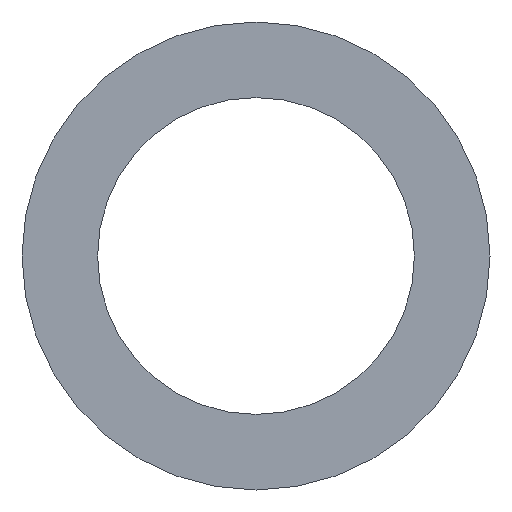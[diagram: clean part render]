
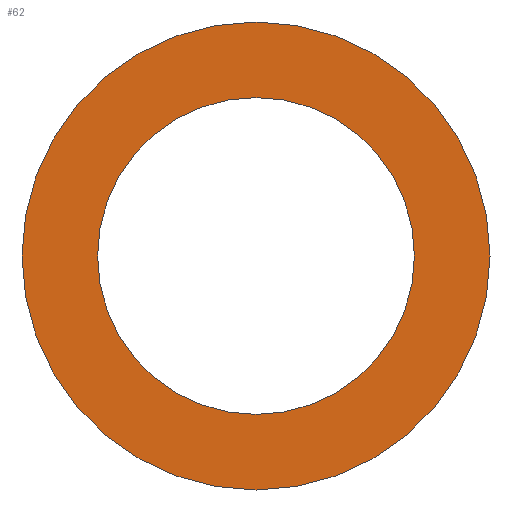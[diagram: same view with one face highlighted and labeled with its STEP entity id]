
A CAD part, front view. The second image highlights one B-rep face of the part: STEP entity #62.
In plain terms, the highlighted planar face has unit normal (0, -1, 0).
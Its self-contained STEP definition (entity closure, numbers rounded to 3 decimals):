
#20=PLANE('',#83);
#26=ORIENTED_EDGE('',*,*,#30,.T.);
#27=ORIENTED_EDGE('',*,*,#32,.F.);
#30=EDGE_CURVE('',#34,#34,#38,.T.);
#32=EDGE_CURVE('',#36,#36,#40,.T.);
#34=VERTEX_POINT('',#106);
#36=VERTEX_POINT('',#111);
#38=CIRCLE('',#78,130.);
#40=CIRCLE('',#81,192.);
#46=EDGE_LOOP('',(#26));
#47=EDGE_LOOP('',(#27));
#54=FACE_BOUND('',#46,.T.);
#55=FACE_BOUND('',#47,.T.);
#62=ADVANCED_FACE('',(#54,#55),#20,.F.);
#78=AXIS2_PLACEMENT_3D('',#105,#89,#90);
#81=AXIS2_PLACEMENT_3D('',#110,#95,#96);
#83=AXIS2_PLACEMENT_3D('',#114,#99,#100);
#89=DIRECTION('',(0.,1.,0.));
#90=DIRECTION('',(1.,0.,0.));
#95=DIRECTION('',(0.,1.,0.));
#96=DIRECTION('',(1.,0.,0.));
#99=DIRECTION('',(0.,1.,0.));
#100=DIRECTION('',(0.,0.,1.));
#105=CARTESIAN_POINT('',(0.,-1.5,0.));
#106=CARTESIAN_POINT('',(130.,-1.5,0.));
#110=CARTESIAN_POINT('',(0.,-1.5,0.));
#111=CARTESIAN_POINT('',(192.,-1.5,0.));
#114=CARTESIAN_POINT('',(0.,-1.5,0.));
